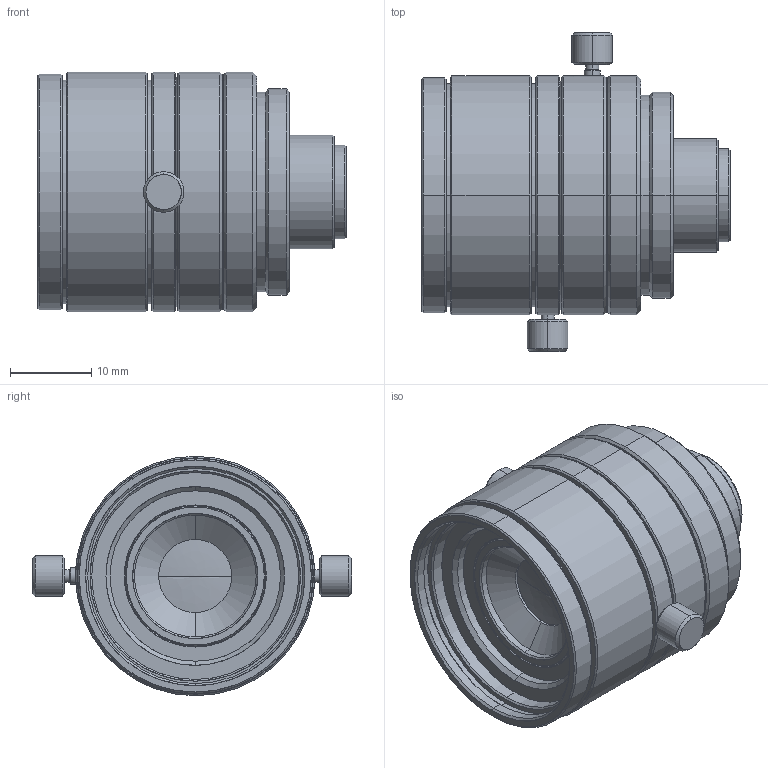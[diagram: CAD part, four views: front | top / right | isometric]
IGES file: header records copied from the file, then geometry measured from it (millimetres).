
Start section: SolidWorks IGES file using analytic representation for surfaces
Global section: file name: C:\Users\tsuji_vst\Documents\【図面】\_3D\00 VST\VS-LDA(APL)\VS-LDA10.IGS; native system: SolidWorks 2016; preprocessor: SolidWorks 2016; author: tsuji_vst; date: 161108.153432; units: millimetre
Bounding box: 37.99 x 39.3 x 29.5 mm (x, y, z)
Surface area: 6732.3 mm2 (no closed solid volume)
Topology: 0 solids, 0 shells, 166 faces, 2814 edges, 2813 vertices
Faces by surface type: revolution 139, bspline 27
